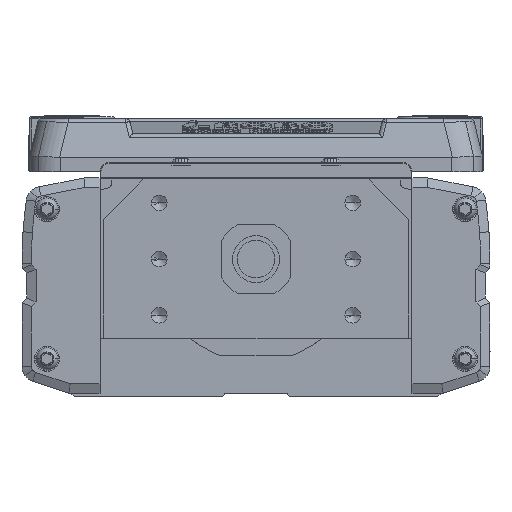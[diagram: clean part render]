
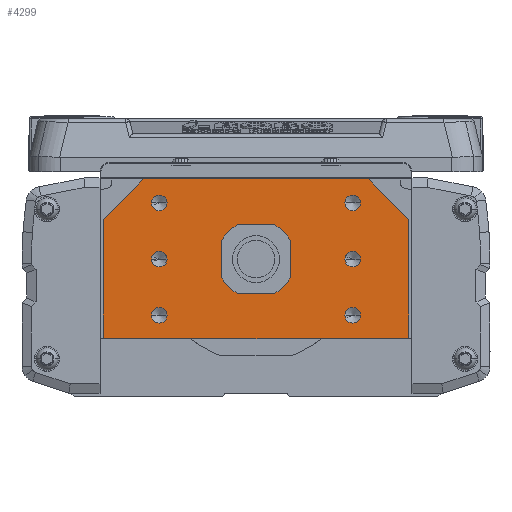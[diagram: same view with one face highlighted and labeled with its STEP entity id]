
A CAD part, left-side view. The second image highlights one B-rep face of the part: STEP entity #4299.
In plain terms, the highlighted planar face has unit normal (-1, 0, 0).
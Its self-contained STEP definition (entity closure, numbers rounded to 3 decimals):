
#4299=ADVANCED_FACE('',(#9559,#9560,#9561,#9562,#9563,#9564,#9565,#9566),#9567,.F.);
#9559=FACE_OUTER_BOUND('',#16750,.T.);
#9560=FACE_BOUND('',#16751,.T.);
#9561=FACE_BOUND('',#16752,.T.);
#9562=FACE_BOUND('',#16753,.T.);
#9563=FACE_BOUND('',#16754,.T.);
#9564=FACE_BOUND('',#16755,.T.);
#9565=FACE_BOUND('',#16756,.T.);
#9566=FACE_BOUND('',#16757,.T.);
#9567=PLANE('',#16758);
#16750=EDGE_LOOP('',(#29564,#29565,#29566,#29567,#29568,#29569,#29570,#29571));
#16751=EDGE_LOOP('',(#29572,#29573));
#16752=EDGE_LOOP('',(#29574,#29575));
#16753=EDGE_LOOP('',(#29576,#29577));
#16754=EDGE_LOOP('',(#29578,#29579));
#16755=EDGE_LOOP('',(#29580,#29581));
#16756=EDGE_LOOP('',(#29582,#29583));
#16757=EDGE_LOOP('',(#29584,#29585));
#16758=AXIS2_PLACEMENT_3D('',#29586,#29587,#29588);
#29564=ORIENTED_EDGE('',*,*,#43124,.F.);
#29565=ORIENTED_EDGE('',*,*,#41823,.F.);
#29566=ORIENTED_EDGE('',*,*,#40401,.F.);
#29567=ORIENTED_EDGE('',*,*,#41941,.F.);
#29568=ORIENTED_EDGE('',*,*,#43125,.F.);
#29569=ORIENTED_EDGE('',*,*,#43126,.F.);
#29570=ORIENTED_EDGE('',*,*,#39855,.F.);
#29571=ORIENTED_EDGE('',*,*,#42003,.F.);
#29572=ORIENTED_EDGE('',*,*,#42747,.T.);
#29573=ORIENTED_EDGE('',*,*,#43127,.T.);
#29574=ORIENTED_EDGE('',*,*,#43128,.T.);
#29575=ORIENTED_EDGE('',*,*,#43129,.T.);
#29576=ORIENTED_EDGE('',*,*,#42617,.T.);
#29577=ORIENTED_EDGE('',*,*,#42687,.T.);
#29578=ORIENTED_EDGE('',*,*,#43130,.T.);
#29579=ORIENTED_EDGE('',*,*,#43131,.T.);
#29580=ORIENTED_EDGE('',*,*,#43132,.T.);
#29581=ORIENTED_EDGE('',*,*,#43133,.T.);
#29582=ORIENTED_EDGE('',*,*,#43134,.T.);
#29583=ORIENTED_EDGE('',*,*,#40450,.T.);
#29584=ORIENTED_EDGE('',*,*,#43135,.F.);
#29585=ORIENTED_EDGE('',*,*,#43136,.F.);
#29586=CARTESIAN_POINT('',(0.,0.275,-2.548));
#29587=DIRECTION('',(1.0,0.,0.));
#29588=DIRECTION('',(0.,1.0,0.));
#39855=EDGE_CURVE('',#48082,#48083,#48084,.T.);
#40401=EDGE_CURVE('',#48989,#48991,#48992,.T.);
#40450=EDGE_CURVE('',#49071,#49069,#49072,.T.);
#41823=EDGE_CURVE('',#48991,#51217,#51220,.T.);
#41941=EDGE_CURVE('',#51395,#48989,#51397,.T.);
#42003=EDGE_CURVE('',#51486,#48082,#51489,.T.);
#42617=EDGE_CURVE('',#52361,#52364,#52366,.T.);
#42687=EDGE_CURVE('',#52364,#52361,#52461,.T.);
#42747=EDGE_CURVE('',#52540,#52543,#52545,.T.);
#43124=EDGE_CURVE('',#51217,#51486,#53050,.T.);
#43125=EDGE_CURVE('',#53051,#51395,#53052,.T.);
#43126=EDGE_CURVE('',#48083,#53051,#53053,.T.);
#43127=EDGE_CURVE('',#52543,#52540,#53054,.T.);
#43128=EDGE_CURVE('',#53055,#53056,#53057,.T.);
#43129=EDGE_CURVE('',#53056,#53055,#53058,.T.);
#43130=EDGE_CURVE('',#53059,#53060,#53061,.T.);
#43131=EDGE_CURVE('',#53060,#53059,#53062,.T.);
#43132=EDGE_CURVE('',#53063,#53064,#53065,.T.);
#43133=EDGE_CURVE('',#53064,#53063,#53066,.T.);
#43134=EDGE_CURVE('',#49069,#49071,#53067,.T.);
#43135=EDGE_CURVE('',#53068,#53069,#53070,.F.);
#43136=EDGE_CURVE('',#53069,#53068,#53071,.F.);
#48082=VERTEX_POINT('',#59837);
#48083=VERTEX_POINT('',#59838);
#48084=LINE('',#59839,#59840);
#48989=VERTEX_POINT('',#61018);
#48991=VERTEX_POINT('',#61021);
#48992=LINE('',#61022,#61023);
#49069=VERTEX_POINT('',#61130);
#49071=VERTEX_POINT('',#61133);
#49072=CIRCLE('',#61134,2.5);
#51217=VERTEX_POINT('',#64115);
#51220=LINE('',#64120,#64121);
#51395=VERTEX_POINT('',#64386);
#51397=LINE('',#64389,#64390);
#51486=VERTEX_POINT('',#64514);
#51489=LINE('',#64518,#64519);
#52361=VERTEX_POINT('',#65687);
#52364=VERTEX_POINT('',#65691);
#52366=CIRCLE('',#65694,2.5);
#52461=CIRCLE('',#65809,2.5);
#52540=VERTEX_POINT('',#65946);
#52543=VERTEX_POINT('',#65950);
#52545=CIRCLE('',#65953,2.5);
#53050=LINE('',#66658,#66659);
#53051=VERTEX_POINT('',#66660);
#53052=LINE('',#66661,#66662);
#53053=LINE('',#66663,#66664);
#53054=CIRCLE('',#66665,2.5);
#53055=VERTEX_POINT('',#66666);
#53056=VERTEX_POINT('',#66667);
#53057=CIRCLE('',#66668,2.5);
#53058=CIRCLE('',#66669,2.5);
#53059=VERTEX_POINT('',#66670);
#53060=VERTEX_POINT('',#66671);
#53061=CIRCLE('',#66672,2.5);
#53062=CIRCLE('',#66673,2.5);
#53063=VERTEX_POINT('',#66674);
#53064=VERTEX_POINT('',#66675);
#53065=CIRCLE('',#66676,2.5);
#53066=CIRCLE('',#66677,2.5);
#53067=CIRCLE('',#66678,2.5);
#53068=VERTEX_POINT('',#66679);
#53069=VERTEX_POINT('',#66680);
#53070=CIRCLE('',#66681,7.5);
#53071=CIRCLE('',#66682,7.5);
#59837=CARTESIAN_POINT('',(0.,-36.,25.7));
#59838=CARTESIAN_POINT('',(0.,-49.,12.7));
#59839=CARTESIAN_POINT('',(0.,-37.243,24.457));
#59840=VECTOR('',#72226,10.0);
#61018=CARTESIAN_POINT('',(0.,48.5,-25.5));
#61021=CARTESIAN_POINT('',(0.,49.,-25.));
#61022=CARTESIAN_POINT('',(0.,48.5,-25.5));
#61023=VECTOR('',#73009,10.0);
#61130=CARTESIAN_POINT('',(0.,-33.5,0.));
#61133=CARTESIAN_POINT('',(0.,-28.5,0.));
#61134=AXIS2_PLACEMENT_3D('',#73059,#73060,#73061);
#64115=CARTESIAN_POINT('',(0.,49.,12.7));
#64120=CARTESIAN_POINT('',(0.,49.,-25.));
#64121=VECTOR('',#74911,10.0);
#64386=CARTESIAN_POINT('',(0.,-48.5,-25.5));
#64389=CARTESIAN_POINT('',(0.,0.,-25.5));
#64390=VECTOR('',#75061,10.0);
#64514=CARTESIAN_POINT('',(0.,36.,25.7));
#64518=CARTESIAN_POINT('',(0.,34.5,25.7));
#64519=VECTOR('',#75125,10.0);
#65687=CARTESIAN_POINT('',(0.,33.5,18.));
#65691=CARTESIAN_POINT('',(0.,28.5,18.));
#65694=AXIS2_PLACEMENT_3D('',#75964,#75965,#75966);
#65809=AXIS2_PLACEMENT_3D('',#76089,#76090,#76091);
#65946=CARTESIAN_POINT('',(0.,33.5,-18.));
#65950=CARTESIAN_POINT('',(0.,28.5,-18.));
#65953=AXIS2_PLACEMENT_3D('',#76152,#76153,#76154);
#66658=CARTESIAN_POINT('',(0.,37.381,24.319));
#66659=VECTOR('',#76731,10.);
#66660=CARTESIAN_POINT('',(0.,-49.,-25.));
#66661=CARTESIAN_POINT('',(0.,-49.,-25.));
#66662=VECTOR('',#76732,10.0);
#66663=CARTESIAN_POINT('',(0.,-49.,-14.));
#66664=VECTOR('',#76733,10.0);
#66665=AXIS2_PLACEMENT_3D('',#76734,#76735,#76736);
#66666=CARTESIAN_POINT('',(0.,-33.5,-18.));
#66667=CARTESIAN_POINT('',(0.,-28.5,-18.));
#66668=AXIS2_PLACEMENT_3D('',#76737,#76738,#76739);
#66669=AXIS2_PLACEMENT_3D('',#76740,#76741,#76742);
#66670=CARTESIAN_POINT('',(0.,-33.5,18.));
#66671=CARTESIAN_POINT('',(0.,-28.5,18.));
#66672=AXIS2_PLACEMENT_3D('',#76743,#76744,#76745);
#66673=AXIS2_PLACEMENT_3D('',#76746,#76747,#76748);
#66674=CARTESIAN_POINT('',(0.,33.5,0.));
#66675=CARTESIAN_POINT('',(0.,28.5,0.));
#66676=AXIS2_PLACEMENT_3D('',#76749,#76750,#76751);
#66677=AXIS2_PLACEMENT_3D('',#76752,#76753,#76754);
#66678=AXIS2_PLACEMENT_3D('',#76755,#76756,#76757);
#66679=CARTESIAN_POINT('',(0.,7.5,0.));
#66680=CARTESIAN_POINT('',(0.,-7.5,0.));
#66681=AXIS2_PLACEMENT_3D('',#76758,#76759,#76760);
#66682=AXIS2_PLACEMENT_3D('',#76761,#76762,#76763);
#72226=DIRECTION('',(0.,-0.707,-0.707));
#73009=DIRECTION('',(0.,0.707,0.707));
#73059=CARTESIAN_POINT('',(0.,-31.,0.));
#73060=DIRECTION('',(1.0,0.,0.));
#73061=DIRECTION('',(0.,-1.0,0.));
#74911=DIRECTION('',(0.,0.,1.0));
#75061=DIRECTION('',(0.,1.0,0.));
#75125=DIRECTION('',(0.,-1.0,0.));
#75964=CARTESIAN_POINT('',(0.,31.,18.));
#75965=DIRECTION('',(1.0,0.,0.));
#75966=DIRECTION('',(0.,1.0,0.));
#76089=CARTESIAN_POINT('',(0.,31.,18.));
#76090=DIRECTION('',(1.0,0.,0.));
#76091=DIRECTION('',(0.,1.0,0.));
#76152=CARTESIAN_POINT('',(0.,31.,-18.));
#76153=DIRECTION('',(1.0,0.,0.));
#76154=DIRECTION('',(0.,1.0,0.));
#76731=DIRECTION('',(0.,-0.707,0.707));
#76732=DIRECTION('',(0.,0.707,-0.707));
#76733=DIRECTION('',(0.,0.,-1.0));
#76734=CARTESIAN_POINT('',(0.,31.,-18.));
#76735=DIRECTION('',(1.0,0.,0.));
#76736=DIRECTION('',(0.,1.0,0.));
#76737=CARTESIAN_POINT('',(0.,-31.,-18.));
#76738=DIRECTION('',(1.0,0.,0.));
#76739=DIRECTION('',(0.,-1.0,0.));
#76740=CARTESIAN_POINT('',(0.,-31.,-18.));
#76741=DIRECTION('',(1.0,0.,0.));
#76742=DIRECTION('',(0.,-1.0,0.));
#76743=CARTESIAN_POINT('',(0.,-31.,18.));
#76744=DIRECTION('',(1.0,0.,0.));
#76745=DIRECTION('',(0.,-1.0,0.));
#76746=CARTESIAN_POINT('',(0.,-31.,18.));
#76747=DIRECTION('',(1.0,0.,0.));
#76748=DIRECTION('',(0.,-1.0,0.));
#76749=CARTESIAN_POINT('',(0.,31.,0.));
#76750=DIRECTION('',(1.0,0.,0.));
#76751=DIRECTION('',(0.,1.0,0.));
#76752=CARTESIAN_POINT('',(0.,31.,0.));
#76753=DIRECTION('',(1.0,0.,0.));
#76754=DIRECTION('',(0.,1.0,0.));
#76755=CARTESIAN_POINT('',(0.,-31.,0.));
#76756=DIRECTION('',(1.0,0.,0.));
#76757=DIRECTION('',(0.,-1.0,0.));
#76758=CARTESIAN_POINT('',(0.,0.,0.));
#76759=DIRECTION('',(1.0,0.,0.));
#76760=DIRECTION('',(0.,-1.0,0.));
#76761=CARTESIAN_POINT('',(0.,0.,0.));
#76762=DIRECTION('',(1.0,0.,0.));
#76763=DIRECTION('',(0.,-1.0,0.));
